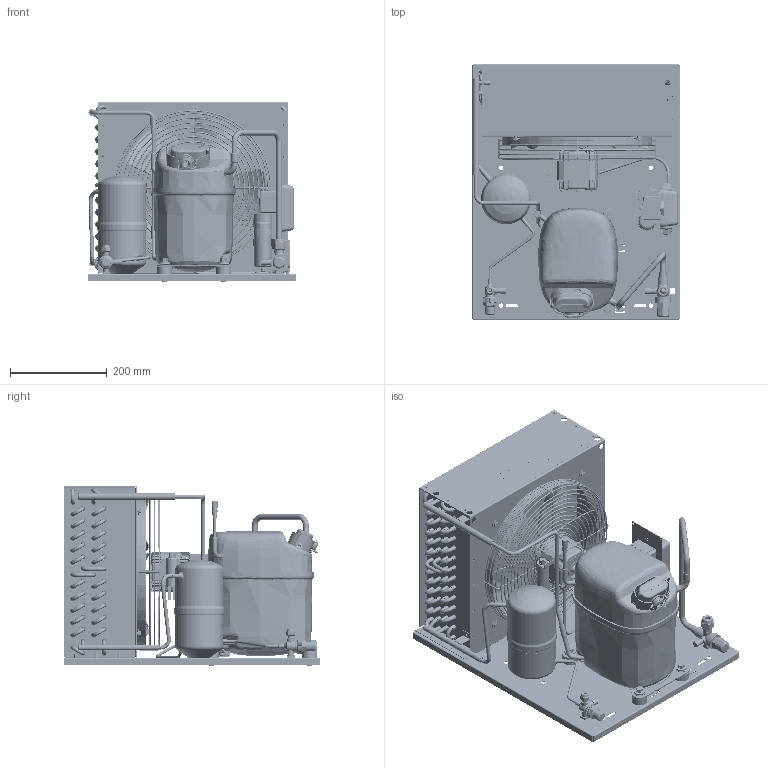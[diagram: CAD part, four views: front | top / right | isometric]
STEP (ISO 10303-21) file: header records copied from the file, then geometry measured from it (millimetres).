
FILE_DESCRIPTION(/* description */ ('Unknown'),/* implementation_level */ '2;1');
FILE_NAME(/* name */ '2298-0047_',/* time_stamp */ '2022-01-10T12:24:30+01:00',/* author */ ('Unknown'),/* organization */ ('Unknown'),/* preprocessor_version */ 'ST-DEVELOPER v16.7',/* originating_system */ 'Solid Edge',/* authorisation */ 'Unknown');
FILE_SCHEMA (('AUTOMOTIVE_DESIGN {1 0 10303 214 3 1 1}'));
Products named in the file (61): 2298-0047; 92505125_oa_0_1; 1440350c70_1; r50119606_1; r50119607_1; r50119601_1; r50000909_1; 2990210_10; r59700398_1; r50118004_1; r50115605_1; 84dm6x8xxxxgabf00_1; 84dm6x8xxxxgabf00_02_1; 84dm6x8xxxxgabf00_01_1; r50000850_1; 2990361_1; 6072_24M12_1; 6062_22M6_5; 100_200vs00_5; 84fm8x12xxxteff00_5; 84DM8X6.9XXESRF00_5; GS21MLX-A-CSR; 84im8xxxxxxtref00_1; 107b9151_1; 99510255_3; 8351_2_10; 99510255_Tubo_3; 8392_A_10; 7030_4m12_1; 84fm8x35xxxtesf00_0; 7560_4_1; gs34tb-a-csr_cilindro_piede_1; 7560_2_5; 7210-0003_5; 7010_22_5; 84t4.8x8xxxtcca00_oa_1_7; 84t4.8x8xxxtcca00_oa_2_7; 84t4.8x8xxxtcca00_oa_3_7; 84t4.8x8xxxtcca00_oa_4_5; 84a4.2x9.5xtbcf01_10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
Assembly tree (154 placements, depth 4):
  2298-0047
    92505125_oa_0_1
    1440350c70_1
      r50119606_1
      r50119607_1
      r50119601_1
      r50000909_1
      2990210_10  x24
      r59700398_1  x30
      r50118004_1
      r50115605_1
      84dm6x8xxxxgabf00_1  x4
        84dm6x8xxxxgabf00_02_1
        84dm6x8xxxxgabf00_01_1
      r50000850_1  x2
      2990361_1  x2
    6072_24M12_1
    6062_22M6_5
    100_200vs00_5
    84fm8x12xxxteff00_5  x2
    84DM8X6.9XXESRF00_5
    GS21MLX-A-CSR
    84im8xxxxxxtref00_1  x4
    107b9151_1  x4
    99510255_3
      8351_2_10
      99510255_Tubo_3
      8392_A_10
    7030_4m12_1
    84fm8x35xxxtesf00_0  x4
    7560_4_1
    gs34tb-a-csr_cilindro_piede_1  x4
    7560_2_5
    8392_A_10  x2
    7210-0003_5  x2
    7010_22_5
    84t4.8x8xxxtcca00_oa_1_7
    84t4.8x8xxxtcca00_oa_2_7
    84t4.8x8xxxtcca00_oa_3_7
    84t4.8x8xxxtcca00_oa_4_5
    84a4.2x9.5xtbcf01_10  x3
    6803-1259_1
    84fm6x14xxxtesf00_1  x4
    84RM6X18XXXPIAF00_1  x4
    84t4.8x8xxxtcca00_oa_5_2
    84t4.8x8xxxtcca00_oa_6_3
    99000082_secop_10
    680123122_1
    680081688_1
    84rm8x24xxxpiaf00  x4
    55502417
    84rm8x14.8xelaf00  x4
    a300-28_0
      a300-28_costruzione_0  x5
    99000082_SECOP_F-GAS_10
    6804-0549_1
    1bt35-25-1vno_0
    2298-0026_CAVO_VENTOLA
    G30035_1_oa_0
      G30035_01_1
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Bounding box: 430 x 530 x 372.82 mm (x, y, z)
Volume: 11378733.6 mm3; surface area: 4403896.1 mm2
Topology: 166 solids, 200 shells, 9219 faces, 23052 edges, 14939 vertices
Faces by surface type: plane 5250, cylinder 1947, bspline 927, torus 642, cone 384, sphere 69
Full cylindrical faces by diameter (mm): 0.5 x1, 1 x3, 1.2 x4, 2.2 x4, 2.7 x19, 2.95 x7, 3 x15, 3.19 x3, 3.2 x4, 3.3 x2, 3.5 x5, 3.6 x8, 3.7 x4, 3.8 x7, 3.85 x1, 3.9 x2, 4 x30, 4.2 x7, 4.3 x1, 4.4 x4, 4.5 x24, 4.6 x5, 4.66 x4, 4.7 x6, 5 x15, 5.1 x2, 5.2 x1, 5.4 x4, 5.5 x15, 5.9 x3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
Entity records: 294942 total; most frequent: CARTESIAN_POINT 83766, ORIENTED_EDGE 33990, DIRECTION 32854, EDGE_CURVE 17281, VERTEX_POINT 12029, LINE 11440, VECTOR 11440, AXIS2_PLACEMENT_3D 10707
